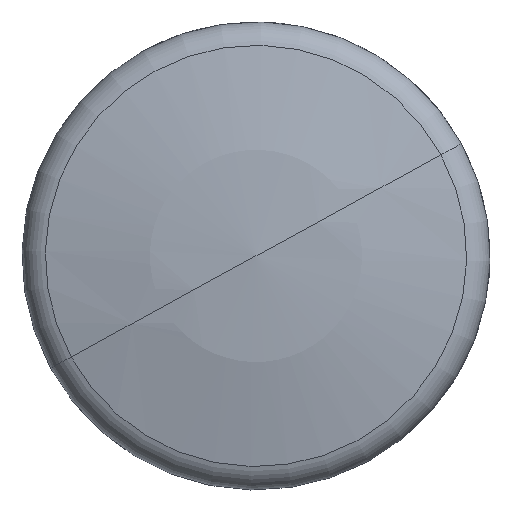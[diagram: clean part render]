
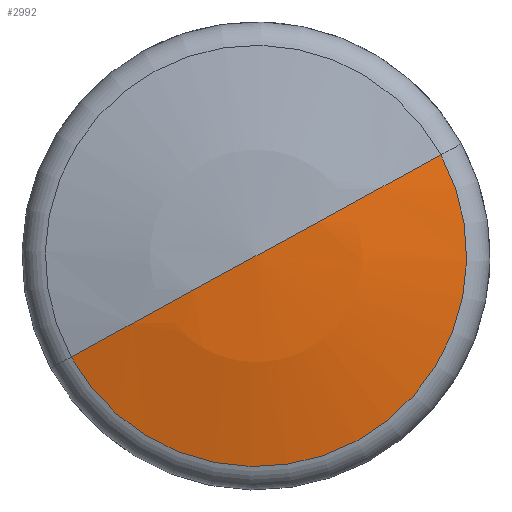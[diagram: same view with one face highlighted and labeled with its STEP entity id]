
A CAD part, top view. The second image highlights one B-rep face of the part: STEP entity #2992.
In plain terms, the highlighted spherical face has radius 230.002 mm.
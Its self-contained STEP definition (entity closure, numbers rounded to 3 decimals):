
#2950=AXIS2_PLACEMENT_3D('Sphere Axis2P3D',#2947,#2948,#2949) ;
#2954=AXIS2_PLACEMENT_3D('Circle Axis2P3D',#2952,#2953,$) ;
#2961=AXIS2_PLACEMENT_3D('Circle Axis2P3D',#2959,#2960,$) ;
#2977=AXIS2_PLACEMENT_3D('Circle Axis2P3D',#2975,#2976,$) ;
#2913=CARTESIAN_POINT('Vertex',(48.381,26.431,74.882)) ;
#2920=CARTESIAN_POINT('Vertex',(-48.381,-26.431,74.882)) ;
#2947=CARTESIAN_POINT('Axis2P3D Location',(0.,0.,-148.415)) ;
#2952=CARTESIAN_POINT('Axis2P3D Location',(0.,0.,-148.415)) ;
#2956=CARTESIAN_POINT('Vertex',(0.,0.,81.587)) ;
#2959=CARTESIAN_POINT('Axis2P3D Location',(0.,0.,-148.415)) ;
#2975=CARTESIAN_POINT('Axis2P3D Location',(0.,0.,74.882)) ;
#2948=DIRECTION('Axis2P3D Direction',(0.,0.,1.)) ;
#2949=DIRECTION('Axis2P3D XDirection',(0.878,0.479,0.)) ;
#2953=DIRECTION('Axis2P3D Direction',(-0.479,0.878,0.)) ;
#2960=DIRECTION('Axis2P3D Direction',(0.479,-0.878,0.)) ;
#2976=DIRECTION('Axis2P3D Direction',(0.,0.,-1.)) ;
#2988=ORIENTED_EDGE('',*,*,#2963,.F.) ;
#2989=ORIENTED_EDGE('',*,*,#2958,.T.) ;
#2990=ORIENTED_EDGE('',*,*,#2979,.T.) ;
#2992=ADVANCED_FACE('10000309994_D10_001.1',(#2991),#2951,.T.) ;
#2955=CIRCLE('generated circle',#2954,230.002) ;
#2962=CIRCLE('generated circle',#2961,230.002) ;
#2978=CIRCLE('generated circle',#2977,55.13) ;
#2958=EDGE_CURVE('',#2957,#2921,#2955,.F.) ;
#2963=EDGE_CURVE('',#2957,#2914,#2962,.F.) ;
#2979=EDGE_CURVE('',#2921,#2914,#2978,.F.) ;
#2987=EDGE_LOOP('',(#2988,#2989,#2990)) ;
#2991=FACE_OUTER_BOUND('',#2987,.T.) ;
#2951=SPHERICAL_SURFACE('',#2950,230.002) ;
#2914=VERTEX_POINT('',#2913) ;
#2921=VERTEX_POINT('',#2920) ;
#2957=VERTEX_POINT('',#2956) ;
